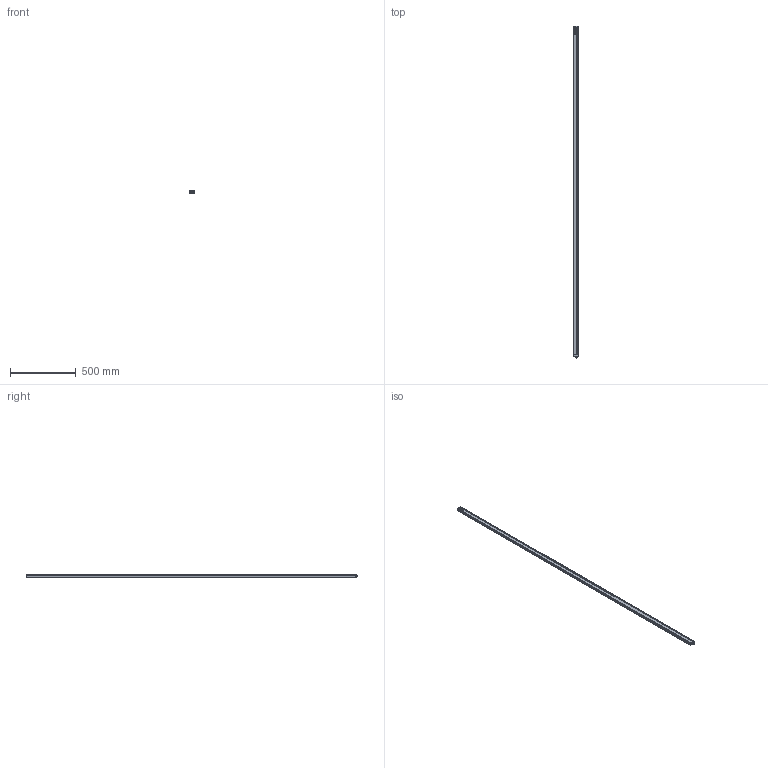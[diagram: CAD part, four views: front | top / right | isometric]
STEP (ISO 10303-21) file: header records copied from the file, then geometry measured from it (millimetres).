
FILE_DESCRIPTION(/* description */ (''),/* implementation_level */ '2;1');
FILE_NAME(/* name */ 'C:\Users\andre\SynologyDrive\Optoscan\Libreria Componenti\00 - Barriere\Polaris sorgente\Barriera Polaris RX\Polaris_2500_RX.stp',/* time_stamp */ '2021-06-04T12:11:27+02:00',/* author */ ('andre'),/* organization */ (''),/* preprocessor_version */ 'ST-DEVELOPER v18',/* originating_system */ 'Autodesk Inventor 2020',/* authorisation */ '');
FILE_SCHEMA (('AUTOMOTIVE_DESIGN { 1 0 10303 214 3 1 1 }'));
Length unit declared in the file: millimetre
Products named in the file (1): Polaris_2500_RX
Bounding box: 40.5 x 2529.3 x 20.75 mm (x, y, z)
Volume: 497008.4 mm3; surface area: 660945.5 mm2
Topology: 1 solids, 1 shells, 700 faces, 1926 edges, 1237 vertices
Faces by surface type: plane 319, cylinder 199, bspline 94, torus 70, sphere 10, cone 8
Full cylindrical faces by diameter (mm): 1 x8, 2.459 x4, 2.5 x4, 3 x4, 3.5 x4, 5.5 x4, 8 x1, 10.5 x2, 11.75 x9, 15.7 x1, 17.5 x1
Entity records: 28472 total; most frequent: CARTESIAN_POINT 10246, ORIENTED_EDGE 3826, DIRECTION 3447, EDGE_CURVE 1913, VERTEX_POINT 1237, AXIS2_PLACEMENT_3D 1211, LINE 1025, VECTOR 1025
